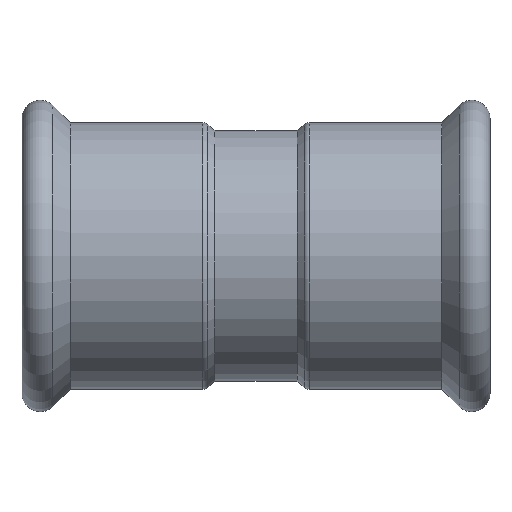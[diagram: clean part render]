
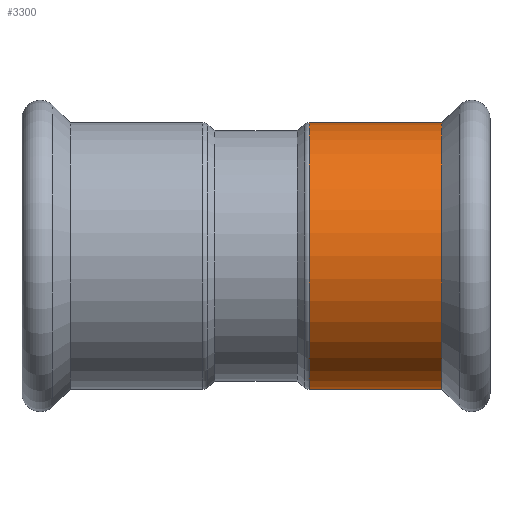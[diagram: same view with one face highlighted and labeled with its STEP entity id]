
A CAD part, top view. The second image highlights one B-rep face of the part: STEP entity #3300.
In plain terms, the highlighted cylindrical face has radius 40.45 mm (diameter 80.9 mm), a partial arc.
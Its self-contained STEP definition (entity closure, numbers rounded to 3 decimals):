
#2890=CARTESIAN_POINT('',(36.969,0.,0.));
#2900=DIRECTION('',(-1.,0.,0.));
#2910=DIRECTION('',(0.,1.,0.));
#2920=AXIS2_PLACEMENT_3D('',#2890,#2900,#2910);
#2930=CYLINDRICAL_SURFACE('',#2920,40.45);
#2940=CARTESIAN_POINT('',(36.969,40.45,0.));
#2950=DIRECTION('',(-1.,0.,0.));
#2960=VECTOR('',#2950,1.);
#2970=LINE('',#2940,#2960);
#2980=CARTESIAN_POINT('',(50.922,40.45,0.));
#2990=VERTEX_POINT('',#2980);
#3000=CARTESIAN_POINT('',(10.588,40.45,0.));
#3010=VERTEX_POINT('',#3000);
#3020=EDGE_CURVE('',#2990,#3010,#2970,.T.);
#3030=ORIENTED_EDGE('',*,*,#3020,.T.);
#3040=CARTESIAN_POINT('',(50.922,0.,0.));
#3050=DIRECTION('',(1.,0.,0.));
#3060=DIRECTION('',(0.,1.,0.));
#3070=AXIS2_PLACEMENT_3D('',#3040,#3050,#3060);
#3080=CIRCLE('',#3070,40.45);
#3090=CARTESIAN_POINT('',(50.922,-40.45,0.))
;
#3100=VERTEX_POINT('',#3090);
#3110=EDGE_CURVE('',#2990,#3100,#3080,.T.);
#3120=ORIENTED_EDGE('',*,*,#3110,.F.);
#3130=CARTESIAN_POINT('',(36.969,-40.45,0.))
;
#3140=DIRECTION('',(-1.,0.,0.));
#3150=VECTOR('',#3140,1.);
#3160=LINE('',#3130,#3150);
#3170=CARTESIAN_POINT('',(10.588,-40.45,0.));
#3180=VERTEX_POINT('',#3170);
#3190=EDGE_CURVE('',#3100,#3180,#3160,.T.);
#3200=ORIENTED_EDGE('',*,*,#3190,.F.);
#3210=CARTESIAN_POINT('',(10.588,0.,0.));
#3220=DIRECTION('',(-1.,0.,0.));
#3230=DIRECTION('',(0.,1.,0.));
#3240=AXIS2_PLACEMENT_3D('',#3210,#3220,#3230);
#3250=CIRCLE('',#3240,40.45);
#3260=EDGE_CURVE('',#3180,#3010,#3250,.T.);
#3270=ORIENTED_EDGE('',*,*,#3260,.F.);
#3280=EDGE_LOOP('',(#3270,#3200,#3120,#3030));
#3290=FACE_OUTER_BOUND('',#3280,.T.);
#3300=ADVANCED_FACE('',(#3290),#2930,.T.);
